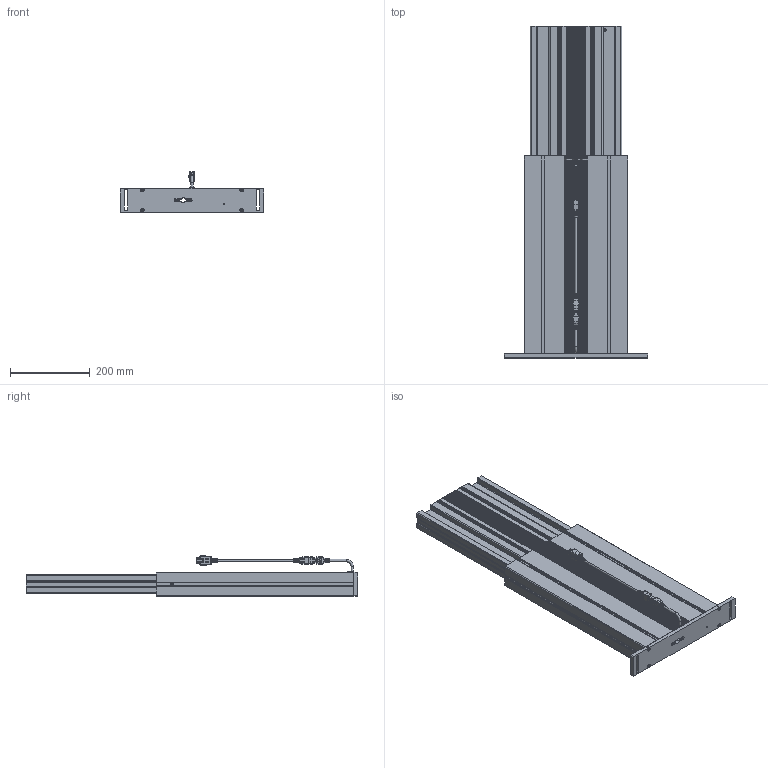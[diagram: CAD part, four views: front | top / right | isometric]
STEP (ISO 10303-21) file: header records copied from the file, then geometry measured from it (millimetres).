
FILE_DESCRIPTION(/* description */ ('Unknown'),/* implementation_level */ '2;1');
FILE_NAME(/* name */ '910.00103_00-Ausgefahren',/* time_stamp */ '2022-02-02T17:56:14+01:00',/* author */ ('Unknown'),/* organization */ ('Unknown'),/* preprocessor_version */ 'ST-DEVELOPER v18.1',/* originating_system */ 'Solid Edge',/* authorisation */ 'Unknown');
FILE_SCHEMA (('AUTOMOTIVE_DESIGN {1 0 10303 214 3 1 1}'));
Products named in the file (12): 910.00103; 126.00137; 119.00566; 119.00565; 142.00166; 124.00201_oa_0; 142.00241; 110.00113_oa_1; 115.00200_oa_2; 124.00151; Kabel Motor Sx; 142.00341
Assembly tree (16 placements, depth 2):
  910.00103
    126.00137
    119.00566
    119.00565
    142.00166  x4
    124.00201_oa_0
    142.00241  x2
    110.00113_oa_1
    115.00200_oa_2
    124.00151
    Kabel Motor Sx
    142.00341  x2
Bounding box: 360 x 830 x 100.67 mm (x, y, z)
Volume: 2812640.8 mm3; surface area: 1660276.7 mm2
Topology: 13 solids, 13 shells, 2673 faces, 7472 edges, 4939 vertices
Faces by surface type: plane 1589, cylinder 891, torus 103, bspline 72, cone 12, sphere 6
Full cylindrical faces by diameter (mm): 1.5 x6, 1.82 x6, 2.459 x1, 2.7 x6, 3.242 x4, 3.4 x1, 4 x4, 5 x5, 5.5 x4, 6 x3, 7 x4, 8.5 x4, 8.7 x4, 30 x2
Entity records: 105169 total; most frequent: CARTESIAN_POINT 19011, ORIENTED_EDGE 14462, DIRECTION 13932, EDGE_CURVE 7231, VERTEX_POINT 4823, LINE 4672, VECTOR 4672, AXIS2_PLACEMENT_3D 4630
